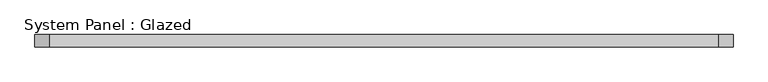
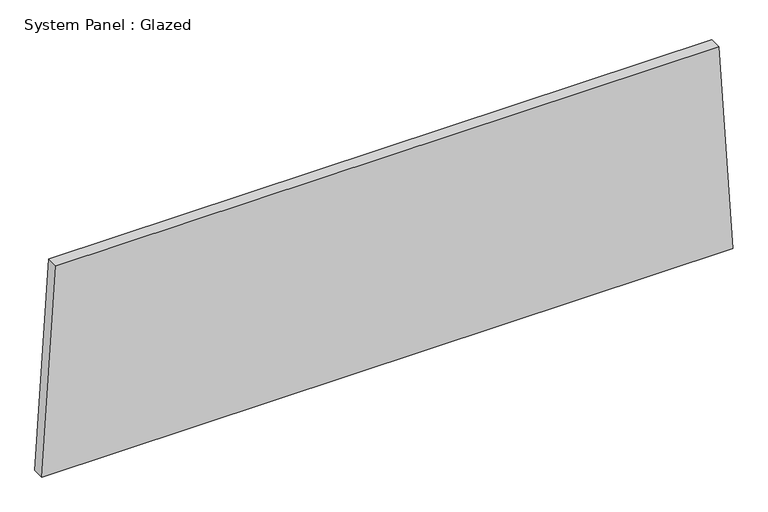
"""IFC4 building model written with IfcOpenShell, lengths in millimetres: plate geometry, System Panel : Glazed."""

from ifc_helpers import new_model, si_unit, frame, origin, place, context, project, spatial, polyline, outline, extrude, source, transform, mapped, element, save


def system_panel_glazed_22f21378(model_context):
    return source(origin(), model_context, "Body", "SweptSolid", [
        extrude(outline(polyline([(0.0, -723.3206314), (0.0, 723.3206314), (457.5813622, 693.8555347), (457.5813622, -693.8555347), (0.0, -723.3206314)])), frame((0.0, -44.45, 0.0), z_axis=(0.0, 1.0, 0.0), x_axis=(0.0, 0.0, 1.0)), (0.0, 0.0, 1.0), 25.4),
    ])


if __name__ == "__main__":
    model = new_model("IFC4")
    model_context = context("Model", 3, world=origin())
    ifc_project = project(units=[si_unit("LENGTHUNIT", "METRE", prefix="MILLI")], contexts=[model_context])
    site = spatial("IfcSite", under=ifc_project)
    building = spatial("IfcBuilding", under=site)
    placement = place(None, origin())
    system_panel_glazed_shape = system_panel_glazed_22f21378(model_context)
    element("IfcPlate", 1, ObjectType="System Panel : Glazed", at=placement, inside=building, context=model_context, shape_type="MappedRepresentation", body=[
        mapped(system_panel_glazed_shape, transform((0.0, 0.0, 0.0), x_axis=(1.0, 0.0, 0.0), y_axis=(0.0, 1.0, 0.0), z_axis=(0.0, 0.0, 1.0))),
    ])
    save(model, "model.ifc")
